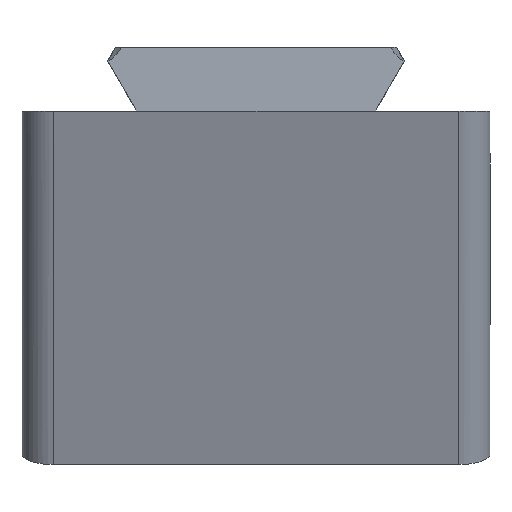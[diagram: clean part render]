
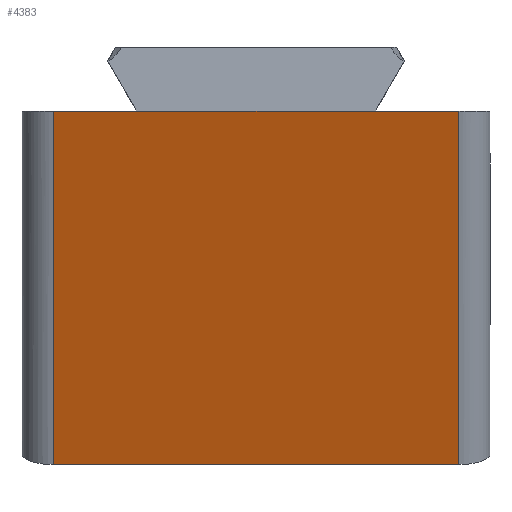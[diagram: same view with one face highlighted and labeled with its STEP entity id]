
A CAD part, left-side view. The second image highlights one B-rep face of the part: STEP entity #4383.
In plain terms, the highlighted planar face has unit normal (-0.946, 0, -0.326).
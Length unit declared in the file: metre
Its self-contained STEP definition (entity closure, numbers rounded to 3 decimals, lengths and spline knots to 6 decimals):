
#640=ORIENTED_EDGE('',*,*,#1774,.T.);
#641=ORIENTED_EDGE('',*,*,#1939,.T.);
#642=ORIENTED_EDGE('',*,*,#1706,.F.);
#643=ORIENTED_EDGE('',*,*,#1940,.T.);
#644=ORIENTED_EDGE('',*,*,#1786,.T.);
#645=ORIENTED_EDGE('',*,*,#1935,.T.);
#1706=EDGE_CURVE('',#2371,#2372,#2814,.T.);
#1774=EDGE_CURVE('',#2430,#2437,#2857,.T.);
#1786=EDGE_CURVE('',#2446,#2422,#2863,.T.);
#1935=EDGE_CURVE('',#2422,#2430,#2937,.T.);
#1939=EDGE_CURVE('',#2437,#2372,#2938,.T.);
#1940=EDGE_CURVE('',#2371,#2446,#2939,.F.);
#2371=VERTEX_POINT('',#5884);
#2372=VERTEX_POINT('',#5886);
#2422=VERTEX_POINT('',#5993);
#2430=VERTEX_POINT('',#6011);
#2437=VERTEX_POINT('',#6028);
#2446=VERTEX_POINT('',#6050);
#2814=LINE('',#5885,#3239);
#2857=LINE('',#6029,#3282);
#2863=LINE('',#6049,#3288);
#2937=LINE('',#6450,#3362);
#2938=LINE('',#6460,#3363);
#2939=LINE('',#6461,#3364);
#3239=VECTOR('',#4912,1.);
#3282=VECTOR('',#5025,1.);
#3288=VECTOR('',#5043,1.);
#3362=VECTOR('',#5173,1.);
#3363=VECTOR('',#5188,1.);
#3364=VECTOR('',#5189,1.);
#3703=EDGE_LOOP('',(#640,#641,#642,#643,#644,#645));
#3988=FACE_BOUND('',#3703,.T.);
#4246=PLANE('',#4703);
#4383=ADVANCED_FACE('',(#3988),#4246,.F.);
#4703=AXIS2_PLACEMENT_3D('',#6459,#5186,#5187);
#4912=DIRECTION('',(0.,1.,0.));
#5025=DIRECTION('',(0.,1.,0.));
#5043=DIRECTION('',(0.,1.,0.));
#5173=DIRECTION('',(0.,1.,0.));
#5186=DIRECTION('',(0.946,0.,0.326));
#5187=DIRECTION('',(0.326,0.,-0.946));
#5188=DIRECTION('',(0.326,0.,-0.946));
#5189=DIRECTION('',(0.326,0.,-0.946));
#5884=CARTESIAN_POINT('',(0.007793,-0.013,-0.022634));
#5885=CARTESIAN_POINT('',(0.007793,-0.015,-0.022634));
#5886=CARTESIAN_POINT('',(0.007793,0.013,-0.022634));
#5993=CARTESIAN_POINT('',(0.,-0.007695,0.));
#6011=CARTESIAN_POINT('',(0.,0.007695,0.));
#6028=CARTESIAN_POINT('',(0.,0.013,0.));
#6029=CARTESIAN_POINT('',(0.,-0.015,0.));
#6049=CARTESIAN_POINT('',(0.,-0.015,0.));
#6050=CARTESIAN_POINT('',(0.,-0.013,0.));
#6450=CARTESIAN_POINT('',(0.,0.,0.));
#6459=CARTESIAN_POINT('',(0.003897,-0.015,-0.011317));
#6460=CARTESIAN_POINT('',(0.003897,0.013,-0.011317));
#6461=CARTESIAN_POINT('',(0.,-0.013,0.));
